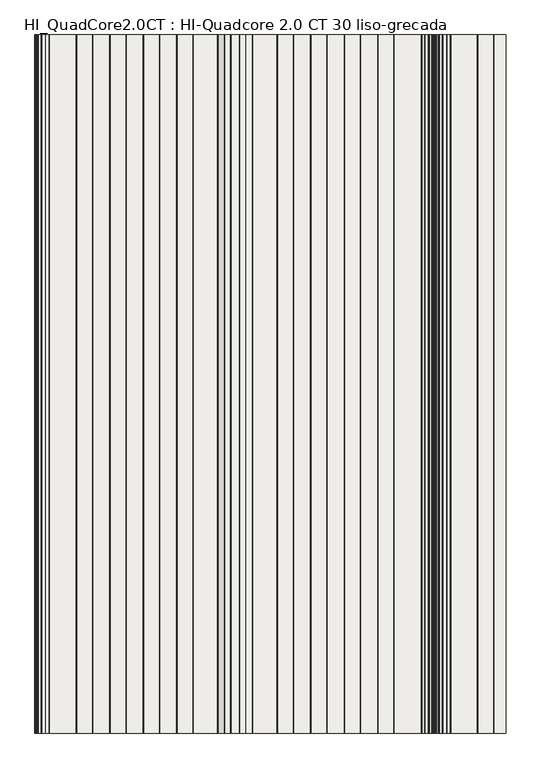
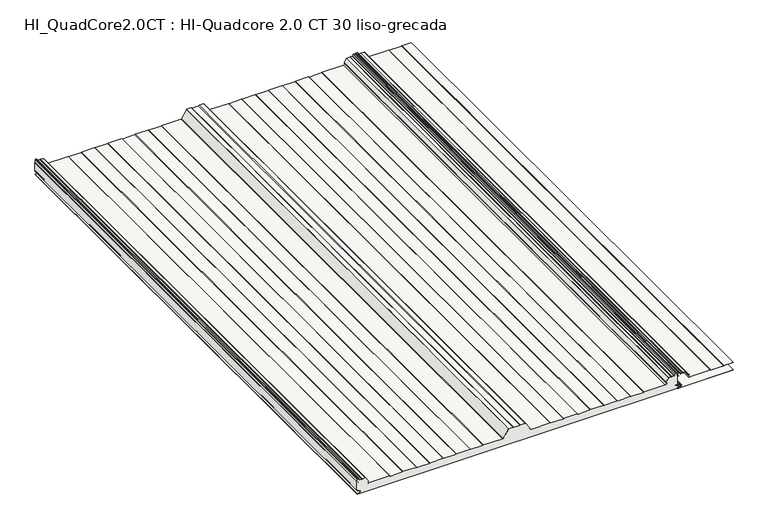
"""IFC4 building model written with IfcOpenShell, lengths in millimetres: slab geometry, HI_QuadCore2.0CT : HI-Quadcore 2.0 CT 30 liso-grecada."""

from ifc_helpers import new_model, si_unit, point, frame, frame_2d, origin, place, context, project, spatial, polyline, circle_curve, trimmed, segment, composite_curve, outline, extrude, source, transform, mapped, element, save
from ifc_brep_helpers import plane_surface, cylinder_surface, revolved_surface, advanced_brep


def hi_quadcore2_0ct_hi_quadcore_2_0_ct_30_liso_grecada_a04230f8(model_context):
    return source(origin(), model_context, "Body", "SolidModel", [
        advanced_brep(
        [(1155.1475465, 0.0, 45.7425833), (1151.3824194, 0.0, 47.9163804), (1150.0, 0.0, 47.9163804), (1150.0, 0.0, 16.239302), (1157.510215, 0.0, 16.239302), (1157.510215, 0.0, 15.4391074), (1153.6125693, 0.0, 15.4391074), (1152.4319301, 0.0, 14.2584682), (1153.4276302, 0.0, 13.0866965), (1161.8278581, 0.0, 11.7547343), (1161.7995989, 0.0, 4.4809044), (1151.8467032, 0.0, 2.9844289), (1152.0100062, 0.0, 0.8), (2297.9590685, 0.0, 0.8), (2299.3391392, 0.0, 2.1800708), (2302.5664905, 0.0, 5.8294074), (2310.7843221, 0.0, 6.8264698), (2310.7843299, 0.0, 9.4135286), (2300.8450446, 0.0, 10.6192254), (2297.8324398, 0.0, 14.0237344), (2297.2282701, 0.0, 15.44), (2292.7624398, 0.0, 15.44), (2292.7624398, 0.0, 16.239302), (2300.0, 0.0, 16.239302), (2300.0, 0.0, 47.9163804), (2298.8824194, 0.0, 47.9163804), (2295.1172924, 0.0, 45.7425833), (2294.7172924, 0.0, 46.4354036), (2298.5824194, 0.0, 48.6669358), (2298.5824194, 0.0, 58.1), (2297.4824194, 0.0, 59.2), (2293.8888221, 0.0, 59.2), (2292.8725546, 0.0, 58.5209518), (2291.0157992, 0.0, 54.0383476), (2288.8631598, 0.0, 52.6), (2282.1371875, 0.0, 52.6), (2280.4324194, 0.0, 51.8110374), (2278.7276514, 0.0, 52.6), (2269.4004541, 0.0, 52.6), (2268.4939153, 0.0, 52.1230469), (2259.1558806, 0.0, 38.5361221), (2259.356723, 0.0, 37.0692788), (2260.3070878, 0.0, 36.2744554), (2257.4852773, 0.0, 29.2), (2181.3816122, 0.0, 29.2), (2179.6495614, 0.0, 28.2), (2134.6152775, 0.0, 28.2), (2132.8832267, 0.0, 29.2), (2085.3816122, 0.0, 29.2), (2083.6495614, 0.0, 28.2), (2038.6152775, 0.0, 28.2), (2036.8832267, 0.0, 29.2), (1989.3816122, 0.0, 29.2), (1987.6495614, 0.0, 28.2), (1942.6152775, 0.0, 28.2), (1940.8832267, 0.0, 29.2), (1893.3816122, 0.0, 29.2), (1891.6495614, 0.0, 28.2), (1846.6152775, 0.0, 28.2), (1844.8832267, 0.0, 29.2), (1775.9029123, 0.0, 29.2), (1773.9344839, 0.0, 30.2833287), (1755.9445057, 0.0, 58.6885573), (1755.0152048, 0.0, 59.2), (1738.8816122, 0.0, 59.2), (1736.283536, 0.0, 57.7), (1713.9813029, 0.0, 57.7), (1711.3832267, 0.0, 59.2), (1695.2496341, 0.0, 59.2), (1694.3203331, 0.0, 58.6885573), (1676.330355, 0.0, 30.2833287), (1674.3619266, 0.0, 29.2), (1605.3816122, 0.0, 29.2), (1603.6495614, 0.0, 28.2), (1558.6152775, 0.0, 28.2), (1556.8832267, 0.0, 29.2), (1509.3816122, 0.0, 29.2), (1507.6495614, 0.0, 28.2), (1462.6152775, 0.0, 28.2), (1460.8832267, 0.0, 29.2), (1413.3816122, 0.0, 29.2), (1411.6495614, 0.0, 28.2), (1366.6152775, 0.0, 28.2), (1364.8832267, 0.0, 29.2), (1317.3816122, 0.0, 29.2), (1315.6495614, 0.0, 28.2), (1270.6152775, 0.0, 28.2), (1268.8832267, 0.0, 29.2), (1192.7795617, 0.0, 29.2), (1189.9577511, 0.0, 36.2744555), (1190.9081159, 0.0, 37.0692788), (1191.1089583, 0.0, 38.5361221), (1181.7709236, 0.0, 52.1230469), (1180.8643848, 0.0, 52.6), (1171.5371875, 0.0, 52.6), (1169.8324194, 0.0, 51.8110374), (1168.1276514, 0.0, 52.6), (1161.4016791, 0.0, 52.6), (1159.2490397, 0.0, 54.0383476), (1157.3922843, 0.0, 58.5209518), (1156.3760168, 0.0, 59.2), (1152.7824194, 0.0, 59.2), (1151.6824194, 0.0, 58.1), (1151.6824194, 0.0, 48.6669358), (1155.5475465, 0.0, 46.4354036), (1155.1475465, 2000.0, 45.7425833), (1155.5475465, 2000.0, 46.4354036), (1151.6824194, 2000.0, 48.6669358), (1151.6824194, 2000.0, 58.1), (1152.7824194, 2000.0, 59.2), (1156.3760168, 2000.0, 59.2), (1157.3922843, 2000.0, 58.5209518), (1159.2490397, 2000.0, 54.0383476), (1161.4016791, 2000.0, 52.6), (1168.1276514, 2000.0, 52.6), (1169.8324194, 2000.0, 51.8110374), (1171.5371875, 2000.0, 52.6), (1180.8643848, 2000.0, 52.6), (1181.7709236, 2000.0, 52.1230469), (1191.1089583, 2000.0, 38.5361221), (1190.9081159, 2000.0, 37.0692788), (1189.9577511, 2000.0, 36.2744555), (1192.7795617, 2000.0, 29.2), (1268.8832267, 2000.0, 29.2), (1270.6152775, 2000.0, 28.2), (1315.6495614, 2000.0, 28.2), (1317.3816122, 2000.0, 29.2), (1364.8832267, 2000.0, 29.2), (1366.6152775, 2000.0, 28.2), (1411.6495614, 2000.0, 28.2), (1413.3816122, 2000.0, 29.2), (1460.8832267, 2000.0, 29.2), (1462.6152775, 2000.0, 28.2), (1507.6495614, 2000.0, 28.2), (1509.3816122, 2000.0, 29.2), (1556.8832267, 2000.0, 29.2), (1558.6152775, 2000.0, 28.2), (1603.6495614, 2000.0, 28.2), (1605.3816122, 2000.0, 29.2), (1674.3619266, 2000.0, 29.2), (1676.330355, 2000.0, 30.2833287), (1694.3203331, 2000.0, 58.6885573), (1695.2496341, 2000.0, 59.2), (1711.3832267, 2000.0, 59.2), (1713.9813029, 2000.0, 57.7), (1736.283536, 2000.0, 57.7), (1738.8816122, 2000.0, 59.2), (1755.0152048, 2000.0, 59.2), (1755.9445057, 2000.0, 58.6885573), (1773.9344839, 2000.0, 30.2833287), (1775.9029123, 2000.0, 29.2), (1844.8832267, 2000.0, 29.2), (1846.6152775, 2000.0, 28.2), (1891.6495614, 2000.0, 28.2), (1893.3816122, 2000.0, 29.2), (1940.8832267, 2000.0, 29.2), (1942.6152775, 2000.0, 28.2), (1987.6495614, 2000.0, 28.2), (1989.3816122, 2000.0, 29.2), (2036.8832267, 2000.0, 29.2), (2038.6152775, 2000.0, 28.2), (2083.6495614, 2000.0, 28.2), (2085.3816122, 2000.0, 29.2), (2132.8832267, 2000.0, 29.2), (2134.6152775, 2000.0, 28.2), (2179.6495614, 2000.0, 28.2), (2181.3816122, 2000.0, 29.2), (2257.4852773, 2000.0, 29.2), (2260.3070878, 2000.0, 36.2744554), (2259.356723, 2000.0, 37.0692788), (2259.1558806, 2000.0, 38.5361221), (2268.4939153, 2000.0, 52.1230469), (2269.4004541, 2000.0, 52.6), (2278.7276514, 2000.0, 52.6), (2280.4324194, 2000.0, 51.8110374), (2282.1371875, 2000.0, 52.6), (2288.8631598, 2000.0, 52.6), (2291.0157992, 2000.0, 54.0383476), (2292.8725546, 2000.0, 58.5209518), (2293.8888221, 2000.0, 59.2), (2297.4824194, 2000.0, 59.2), (2298.5824194, 2000.0, 58.1), (2298.5824194, 2000.0, 48.6669358), (2294.7172924, 2000.0, 46.4354036), (2295.1172924, 2000.0, 45.7425833), (2298.8824194, 2000.0, 47.9163804), (2300.0, 2000.0, 47.9163804), (2300.0, 2000.0, 16.239302), (2292.7624398, 2000.0, 16.239302), (2292.7624398, 2000.0, 15.44), (2297.2282701, 2000.0, 15.44), (2297.8324398, 2000.0, 14.0237344), (2300.8450446, 2000.0, 10.6192254), (2310.7843299, 2000.0, 9.4135286), (2310.7843221, 2000.0, 6.8264698), (2302.5664905, 2000.0, 5.8294074), (2299.3391392, 2000.0, 2.1800708), (2297.9590685, 2000.0, 0.8), (1152.0100062, 2000.0, 0.8), (1151.8467032, 2000.0, 2.9844289), (1161.7995989, 2000.0, 4.4809044), (1161.8278581, 2000.0, 11.7547343), (1153.4273037, 2000.0, 13.0846342), (1152.4319301, 2000.0, 14.2584682), (1153.6125693, 2000.0, 15.4391074), (1157.510215, 2000.0, 15.4391074), (1157.510215, 2000.0, 16.239302), (1150.0, 2000.0, 16.239302), (1150.0, 2000.0, 47.9163804), (1151.3824194, 2000.0, 47.9163804)],
        [
            (0, 1),
            (1, 2),
            (2, 3),
            (3, 4),
            (4, 5),
            (5, 6),
            (6, 7, circle_curve(frame((1153.6125693, 0.0, 14.2584682), z_axis=(0.0, -1.0, 0.0), x_axis=(1.0, 0.0, 0.0)), 1.1806391)),
            (7, 8, circle_curve(frame((1153.6121809, 0.0, 14.2524448), z_axis=(0.0, -1.0, 0.0), x_axis=(1.0, 0.0, 0.0)), 1.1802661)),
            (8, 9),
            (9, 10, circle_curve(frame((1161.2524398, 0.0, 8.12), z_axis=(0.0, 1.0, 0.0), x_axis=(1.0, 0.0, 0.0)), 3.68)),
            (10, 11),
            (11, 12, circle_curve(frame((1152.0100062, 0.0, 1.8983185), z_axis=(0.0, -1.0, 0.0), x_axis=(1.0, 0.0, 0.0)), 1.0983185)),
            (12, 13),
            (13, 14, circle_curve(frame((2297.9590685, 0.0, 2.1800708), z_axis=(0.0, -1.0, 0.0), x_axis=(1.0, 0.0, 0.0)), 1.3800708)),
            (14, 15, circle_curve(frame((2303.0160638, 0.0, 2.1800708), z_axis=(0.0, 1.0, 0.0), x_axis=(1.0, 0.0, 0.0)), 3.6769246)),
            (15, 16),
            (16, 17, circle_curve(frame((2310.5224398, 0.0, 8.12), z_axis=(0.0, -1.0, 0.0), x_axis=(1.0, 0.0, 0.0)), 1.3197737)),
            (17, 18),
            (18, 19, circle_curve(frame((2301.2624398, 0.0, 14.0237344), z_axis=(0.0, 1.0, 0.0), x_axis=(1.0, 0.0, 0.0)), 3.43)),
            (19, 20, circle_curve(frame((2295.8703839, 0.0, 14.0237344), z_axis=(0.0, -1.0, 0.0), x_axis=(1.0, 0.0, 0.0)), 1.9620559)),
            (20, 21),
            (21, 22),
            (22, 23),
            (23, 24),
            (24, 25),
            (25, 26),
            (26, 27),
            (27, 28),
            (28, 29),
            (29, 30, circle_curve(frame((2297.4824194, 0.0, 58.1), z_axis=(0.0, -1.0, 0.0), x_axis=(1.0, 0.0, 0.0)), 1.1)),
            (30, 31),
            (31, 32, circle_curve(frame((2293.8888221, 0.0, 58.1), z_axis=(0.0, -1.0, 0.0), x_axis=(1.0, 0.0, 0.0)), 1.1)),
            (32, 33),
            (33, 34, circle_curve(frame((2288.8631598, 0.0, 54.93), z_axis=(0.0, 1.0, 0.0), x_axis=(1.0, 0.0, 0.0)), 2.33)),
            (34, 35),
            (35, 36),
            (36, 37),
            (37, 38),
            (38, 39, circle_curve(frame((2269.4004541, 0.0, 51.5), z_axis=(0.0, -1.0, 0.0), x_axis=(1.0, 0.0, 0.0)), 1.1)),
            (39, 40),
            (40, 41, circle_curve(frame((2260.0624194, 0.0, 37.9130753), z_axis=(0.0, -1.0, 0.0), x_axis=(1.0, 0.0, 0.0)), 1.1)),
            (41, 42),
            (42, 43, circle_curve(frame((2257.4852773, 0.0, 33.3), z_axis=(0.0, 1.0, 0.0), x_axis=(1.0, 0.0, 0.0)), 4.1)),
            (43, 44),
            (44, 45),
            (45, 46),
            (46, 47),
            (47, 48),
            (48, 49),
            (49, 50),
            (50, 51),
            (51, 52),
            (52, 53),
            (53, 54),
            (54, 55),
            (55, 56),
            (56, 57),
            (57, 58),
            (58, 59),
            (59, 60),
            (60, 61, circle_curve(frame((1775.9029123, 0.0, 31.53), z_axis=(0.0, 1.0, 0.0), x_axis=(1.0, 0.0, 0.0)), 2.33)),
            (61, 62),
            (62, 63, circle_curve(frame((1755.0152048, 0.0, 58.1), z_axis=(0.0, -1.0, 0.0), x_axis=(1.0, 0.0, 0.0)), 1.1)),
            (63, 64),
            (64, 65),
            (65, 66),
            (66, 67),
            (67, 68),
            (68, 69, circle_curve(frame((1695.2496341, 0.0, 58.1), z_axis=(0.0, -1.0, 0.0), x_axis=(1.0, 0.0, 0.0)), 1.1)),
            (69, 70),
            (70, 71, circle_curve(frame((1674.3619266, 0.0, 31.53), z_axis=(0.0, 1.0, 0.0), x_axis=(1.0, 0.0, 0.0)), 2.33)),
            (71, 72),
            (72, 73),
            (73, 74),
            (74, 75),
            (75, 76),
            (76, 77),
            (77, 78),
            (78, 79),
            (79, 80),
            (80, 81),
            (81, 82),
            (82, 83),
            (83, 84),
            (84, 85),
            (85, 86),
            (86, 87),
            (87, 88),
            (88, 89, circle_curve(frame((1192.7795617, 0.0, 33.3), z_axis=(0.0, 1.0, 0.0), x_axis=(1.0, 0.0, 0.0)), 4.1)),
            (89, 90),
            (90, 91, circle_curve(frame((1190.2024195, 0.0, 37.9130752), z_axis=(0.0, -1.0, 0.0), x_axis=(1.0, 0.0, 0.0)), 1.1)),
            (91, 92),
            (92, 93, circle_curve(frame((1180.8643848, 0.0, 51.5), z_axis=(0.0, -1.0, 0.0), x_axis=(1.0, 0.0, 0.0)), 1.1)),
            (93, 94),
            (94, 95),
            (95, 96),
            (96, 97),
            (97, 98, circle_curve(frame((1161.4016791, 0.0, 54.93), z_axis=(0.0, 1.0, 0.0), x_axis=(1.0, 0.0, 0.0)), 2.33)),
            (98, 99),
            (99, 100, circle_curve(frame((1156.3760168, 0.0, 58.1), z_axis=(0.0, -1.0, 0.0), x_axis=(1.0, 0.0, 0.0)), 1.1)),
            (100, 101),
            (101, 102, circle_curve(frame((1152.7824194, 0.0, 58.1), z_axis=(0.0, -1.0, 0.0), x_axis=(1.0, 0.0, 0.0)), 1.1)),
            (102, 103),
            (103, 104),
            (104, 0),
            (105, 106),
            (106, 107),
            (107, 108),
            (108, 109, circle_curve(frame((1152.7824194, 2000.0, 58.1), z_axis=(0.0, 1.0, 0.0), x_axis=(1.0, 0.0, 0.0)), 1.1)),
            (109, 110),
            (110, 111, circle_curve(frame((1156.3760168, 2000.0, 58.1), z_axis=(0.0, 1.0, 0.0), x_axis=(1.0, 0.0, 0.0)), 1.1)),
            (111, 112),
            (112, 113, circle_curve(frame((1161.4016791, 2000.0, 54.93), z_axis=(0.0, -1.0, 0.0), x_axis=(1.0, 0.0, 0.0)), 2.33)),
            (113, 114),
            (114, 115),
            (115, 116),
            (116, 117),
            (117, 118, circle_curve(frame((1180.8643848, 2000.0, 51.5), z_axis=(0.0, 1.0, 0.0), x_axis=(1.0, 0.0, 0.0)), 1.1)),
            (118, 119),
            (119, 120, circle_curve(frame((1190.2024195, 2000.0, 37.9130752), z_axis=(0.0, 1.0, 0.0), x_axis=(1.0, 0.0, 0.0)), 1.1)),
            (120, 121),
            (121, 122, circle_curve(frame((1192.7795617, 2000.0, 33.3), z_axis=(0.0, -1.0, 0.0), x_axis=(1.0, 0.0, 0.0)), 4.1)),
            (122, 123),
            (123, 124),
            (124, 125),
            (125, 126),
            (126, 127),
            (127, 128),
            (128, 129),
            (129, 130),
            (130, 131),
            (131, 132),
            (132, 133),
            (133, 134),
            (134, 135),
            (135, 136),
            (136, 137),
            (137, 138),
            (138, 139),
            (139, 140, circle_curve(frame((1674.3619266, 2000.0, 31.53), z_axis=(0.0, -1.0, 0.0), x_axis=(1.0, 0.0, 0.0)), 2.33)),
            (140, 141),
            (141, 142, circle_curve(frame((1695.2496341, 2000.0, 58.1), z_axis=(0.0, 1.0, 0.0), x_axis=(1.0, 0.0, 0.0)), 1.1)),
            (142, 143),
            (143, 144),
            (144, 145),
            (145, 146),
            (146, 147),
            (147, 148, circle_curve(frame((1755.0152048, 2000.0, 58.1), z_axis=(0.0, 1.0, 0.0), x_axis=(1.0, 0.0, 0.0)), 1.1)),
            (148, 149),
            (149, 150, circle_curve(frame((1775.9029123, 2000.0, 31.53), z_axis=(0.0, -1.0, 0.0), x_axis=(1.0, 0.0, 0.0)), 2.33)),
            (150, 151),
            (151, 152),
            (152, 153),
            (153, 154),
            (154, 155),
            (155, 156),
            (156, 157),
            (157, 158),
            (158, 159),
            (159, 160),
            (160, 161),
            (161, 162),
            (162, 163),
            (163, 164),
            (164, 165),
            (165, 166),
            (166, 167),
            (167, 168, circle_curve(frame((2257.4852773, 2000.0, 33.3), z_axis=(0.0, -1.0, 0.0), x_axis=(1.0, 0.0, 0.0)), 4.1)),
            (168, 169),
            (169, 170, circle_curve(frame((2260.0624194, 2000.0, 37.9130753), z_axis=(0.0, 1.0, 0.0), x_axis=(1.0, 0.0, 0.0)), 1.1)),
            (170, 171),
            (171, 172, circle_curve(frame((2269.4004541, 2000.0, 51.5), z_axis=(0.0, 1.0, 0.0), x_axis=(1.0, 0.0, 0.0)), 1.1)),
            (172, 173),
            (173, 174),
            (174, 175),
            (175, 176),
            (176, 177, circle_curve(frame((2288.8631598, 2000.0, 54.93), z_axis=(0.0, -1.0, 0.0), x_axis=(1.0, 0.0, 0.0)), 2.33)),
            (177, 178),
            (178, 179, circle_curve(frame((2293.8888221, 2000.0, 58.1), z_axis=(0.0, 1.0, 0.0), x_axis=(1.0, 0.0, 0.0)), 1.1)),
            (179, 180),
            (180, 181, circle_curve(frame((2297.4824194, 2000.0, 58.1), z_axis=(0.0, 1.0, 0.0), x_axis=(1.0, 0.0, 0.0)), 1.1)),
            (181, 182),
            (182, 183),
            (183, 184),
            (184, 185),
            (185, 186),
            (186, 187),
            (187, 188),
            (188, 189),
            (189, 190),
            (190, 191, circle_curve(frame((2295.8703839, 2000.0, 14.0237344), z_axis=(0.0, 1.0, 0.0), x_axis=(1.0, 0.0, 0.0)), 1.9620559)),
            (191, 192, circle_curve(frame((2301.2624398, 2000.0, 14.0237344), z_axis=(0.0, -1.0, 0.0), x_axis=(1.0, 0.0, 0.0)), 3.43)),
            (192, 193),
            (193, 194, circle_curve(frame((2310.5224398, 2000.0, 8.12), z_axis=(0.0, 1.0, 0.0), x_axis=(1.0, 0.0, 0.0)), 1.3197737)),
            (194, 195),
            (195, 196, circle_curve(frame((2303.0160638, 2000.0, 2.1800708), z_axis=(0.0, -1.0, 0.0), x_axis=(1.0, 0.0, 0.0)), 3.6769246)),
            (196, 197, circle_curve(frame((2297.9590685, 2000.0, 2.1800708), z_axis=(0.0, 1.0, 0.0), x_axis=(1.0, 0.0, 0.0)), 1.3800708)),
            (197, 198),
            (198, 199, circle_curve(frame((1152.0100062, 2000.0, 1.8983185), z_axis=(0.0, 1.0, 0.0), x_axis=(1.0, 0.0, 0.0)), 1.0983185)),
            (199, 200),
            (200, 201, circle_curve(frame((1161.2524398, 2000.0, 8.12), z_axis=(0.0, -1.0, 0.0), x_axis=(1.0, 0.0, 0.0)), 3.68)),
            (201, 202),
            (202, 203, circle_curve(frame((1153.6121809, 2000.0, 14.2524448), z_axis=(0.0, 1.0, 0.0), x_axis=(1.0, 0.0, 0.0)), 1.1802661)),
            (203, 204, circle_curve(frame((1153.6125693, 2000.0, 14.2584682), z_axis=(0.0, 1.0, 0.0), x_axis=(1.0, 0.0, 0.0)), 1.1806391)),
            (204, 205),
            (205, 206),
            (206, 207),
            (207, 208),
            (208, 209),
            (209, 105),
            (0, 105),
            (209, 1),
            (208, 2),
            (207, 3),
            (186, 24),
            (23, 187),
            (185, 25),
            (184, 26),
            (183, 27),
            (182, 28),
            (181, 29),
            (180, 30),
            (179, 31),
            (178, 32),
            (177, 33),
            (176, 34),
            (175, 35),
            (174, 36),
            (173, 37),
            (172, 38),
            (171, 39),
            (170, 40),
            (169, 41),
            (168, 42),
            (167, 43),
            (166, 44),
            (165, 45),
            (164, 46),
            (163, 47),
            (162, 48),
            (161, 49),
            (160, 50),
            (159, 51),
            (158, 52),
            (157, 53),
            (156, 54),
            (155, 55),
            (154, 56),
            (153, 57),
            (152, 58),
            (151, 59),
            (150, 60),
            (149, 61),
            (148, 62),
            (147, 63),
            (146, 64),
            (145, 65),
            (144, 66),
            (143, 67),
            (142, 68),
            (141, 69),
            (140, 70),
            (139, 71),
            (138, 72),
            (137, 73),
            (136, 74),
            (135, 75),
            (134, 76),
            (133, 77),
            (132, 78),
            (131, 79),
            (130, 80),
            (129, 81),
            (128, 82),
            (127, 83),
            (126, 84),
            (125, 85),
            (124, 86),
            (123, 87),
            (122, 88),
            (121, 89),
            (120, 90),
            (119, 91),
            (118, 92),
            (117, 93),
            (116, 94),
            (115, 95),
            (114, 96),
            (113, 97),
            (112, 98),
            (111, 99),
            (110, 100),
            (109, 101),
            (108, 102),
            (107, 103),
            (106, 104),
            (22, 188),
            (206, 4),
            (205, 5),
            (204, 6),
            (203, 7),
            (202, 8),
            (201, 9),
            (200, 10),
            (199, 11),
            (198, 12),
            (197, 13),
            (196, 14),
            (195, 15),
            (194, 16),
            (193, 17),
            (192, 18),
            (191, 19),
            (190, 20),
            (189, 21),
        ],
        [
            plane_surface(frame((1151.3824194, 0.0, 47.9163804), z_axis=(0.0, -1.0, 0.0), x_axis=(-0.866025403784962, 0.0, 0.4999999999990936))),
            plane_surface(frame((1151.3824194, 2000.0, 47.9163804), z_axis=(0.0, 1.0, 0.0), x_axis=(0.866025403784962, 0.0, -0.4999999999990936))),
            plane_surface(frame((1155.1475465, 0.0, 45.7425833), z_axis=(0.4999999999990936, 0.0, 0.866025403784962), x_axis=(0.0, 1.0, 0.0))),
            plane_surface(frame((1151.3824194, 0.0, 47.9163804), z_axis=(0.0, 0.0, 1.0), x_axis=(0.0, 1.0, 0.0))),
            plane_surface(frame((1150.0, 0.0, 47.9163804), z_axis=(-1.0, 0.0, 0.0), x_axis=(0.0, 1.0, 0.0))),
            plane_surface(frame((2300.0, 0.0, 20.0), z_axis=(1.0, 0.0, 0.0), x_axis=(0.0, 1.0, 0.0))),
            plane_surface(frame((2300.0, 0.0, 47.9163804), z_axis=(0.0, 0.0, 1.0), x_axis=(0.0, 1.0, 0.0))),
            plane_surface(frame((2298.8824194, 0.0, 47.9163804), z_axis=(-0.4999999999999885, 0.0, 0.8660254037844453), x_axis=(0.0, 1.0, 0.0))),
            plane_surface(frame((2295.1172924, 0.0, 45.7425833), z_axis=(0.8660254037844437, 0.0, 0.49999999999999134), x_axis=(0.0, 1.0, 0.0))),
            plane_surface(frame((2294.7172924, 0.0, 46.4354036), z_axis=(0.4999999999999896, 0.0, -0.8660254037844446), x_axis=(0.0, 1.0, 0.0))),
            plane_surface(frame((2298.5824194, 0.0, 48.6669358), z_axis=(1.0, 0.0, 0.0), x_axis=(0.0, 1.0, 0.0))),
            cylinder_surface(frame((2297.4824194, 2000.0, 58.1), z_axis=(0.0, -1.0, 0.0), x_axis=(1.0, 0.0, 0.0)), 1.1),
            plane_surface(frame((2297.4824194, 0.0, 59.2), z_axis=(0.0, 0.0, 1.0), x_axis=(0.0, 1.0, 0.0))),
            cylinder_surface(frame((2293.8888221, 2000.0, 58.1), z_axis=(0.0, -1.0, 0.0), x_axis=(1.0, 0.0, 0.0)), 1.1),
            plane_surface(frame((2292.8725546, 0.0, 58.5209518), z_axis=(-0.9238795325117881, 0.0, 0.38268343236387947), x_axis=(0.0, 1.0, 0.0))),
            revolved_surface(polyline([(2291.1931598, 2000.0, 54.93), (2291.1931598, 0.0, 54.93)]), (2288.8631598, 2000.0, 54.93), (0.0, 1.0, 0.0)),
            plane_surface(frame((2288.8631598, 0.0, 52.6), z_axis=(0.0, 0.0, 1.0), x_axis=(0.0, 1.0, 0.0))),
            plane_surface(frame((2282.1371875, 0.0, 52.6), z_axis=(-0.4199999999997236, 0.0, 0.9075241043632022), x_axis=(0.0, 1.0, 0.0))),
            plane_surface(frame((2280.4324194, 0.0, 51.8110374), z_axis=(0.42000000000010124, 0.0, 0.9075241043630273), x_axis=(0.0, 1.0, 0.0))),
            plane_surface(frame((2278.7276514, 0.0, 52.6), z_axis=(0.0, 0.0, 1.0), x_axis=(0.0, 1.0, 0.0))),
            cylinder_surface(frame((2269.4004541, 2000.0, 51.5), z_axis=(0.0, -1.0, 0.0), x_axis=(1.0, 0.0, 0.0)), 1.1),
            plane_surface(frame((2268.4939153, 0.0, 52.1230469), z_axis=(-0.824126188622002, 0.0, 0.5664062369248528), x_axis=(0.0, 1.0, 0.0))),
            cylinder_surface(frame((2260.0624194, 2000.0, 37.9130753), z_axis=(0.0, -1.0, 0.0), x_axis=(1.0, 0.0, 0.0)), 1.1),
            plane_surface(frame((2259.356723, 0.0, 37.0692788), z_axis=(-0.6415422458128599, 0.0, -0.7670877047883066), x_axis=(0.0, 1.0, 0.0))),
            revolved_surface(polyline([(2261.5852772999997, 2000.0, 33.3), (2261.5852772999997, 0.0, 33.3)]), (2257.4852773, 2000.0, 33.3), (0.0, 1.0, 0.0)),
            plane_surface(frame((2257.4852773, 0.0, 29.2), z_axis=(0.0, 0.0, 1.0), x_axis=(0.0, 1.0, 0.0))),
            plane_surface(frame((2181.3816122, 0.0, 29.2), z_axis=(-0.4999999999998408, 0.0, 0.8660254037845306), x_axis=(0.0, 1.0, 0.0))),
            plane_surface(frame((2179.6495614, 0.0, 28.2), z_axis=(0.0, 0.0, 1.0), x_axis=(0.0, 1.0, 0.0))),
            plane_surface(frame((2134.6152775, 0.0, 28.2), z_axis=(0.4999999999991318, 0.0, 0.86602540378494), x_axis=(0.0, 1.0, 0.0))),
            plane_surface(frame((2132.8832267, 0.0, 29.2), z_axis=(0.0, 0.0, 1.0), x_axis=(0.0, 1.0, 0.0))),
            plane_surface(frame((2085.3816122, 0.0, 29.2), z_axis=(-0.49999999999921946, 0.0, 0.8660254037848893), x_axis=(0.0, 1.0, 0.0))),
            plane_surface(frame((2083.6495614, 0.0, 28.2), z_axis=(0.0, 0.0, 1.0), x_axis=(0.0, 1.0, 0.0))),
            plane_surface(frame((2038.6152775, 0.0, 28.2), z_axis=(0.49999999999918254, 0.0, 0.8660254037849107), x_axis=(0.0, 1.0, 0.0))),
            plane_surface(frame((2036.8832267, 0.0, 29.2), z_axis=(0.0, 0.0, 1.0), x_axis=(0.0, 1.0, 0.0))),
            plane_surface(frame((1989.3816122, 0.0, 29.2), z_axis=(-0.4999999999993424, 0.0, 0.8660254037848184), x_axis=(0.0, 1.0, 0.0))),
            plane_surface(frame((1987.6495614, 0.0, 28.2), z_axis=(0.0, 0.0, 1.0), x_axis=(0.0, 1.0, 0.0))),
            plane_surface(frame((1942.6152775, 0.0, 28.2), z_axis=(0.4999999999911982, 0.0, 0.8660254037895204), x_axis=(0.0, 1.0, 0.0))),
            plane_surface(frame((1940.8832267, 0.0, 29.2), z_axis=(0.0, 0.0, 1.0), x_axis=(0.0, 1.0, 0.0))),
            plane_surface(frame((1893.3816122, 0.0, 29.2), z_axis=(-0.5000000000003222, 0.0, 0.8660254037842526), x_axis=(0.0, 1.0, 0.0))),
            plane_surface(frame((1891.6495614, 0.0, 28.2), z_axis=(0.0, 0.0, 1.0), x_axis=(0.0, 1.0, 0.0))),
            plane_surface(frame((1846.6152775, 0.0, 28.2), z_axis=(0.5000000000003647, 0.0, 0.8660254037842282), x_axis=(0.0, 1.0, 0.0))),
            plane_surface(frame((1844.8832267, 0.0, 29.2), z_axis=(0.0, 0.0, 1.0), x_axis=(0.0, 1.0, 0.0))),
            revolved_surface(polyline([(1778.2329123, 2000.0, 31.53), (1778.2329123, 0.0, 31.53)]), (1775.9029123, 2000.0, 31.53), (0.0, 1.0, 0.0)),
            plane_surface(frame((1773.9344839, 0.0, 30.2833287), z_axis=(0.8448190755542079, 0.0, 0.5350520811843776), x_axis=(0.0, 1.0, 0.0))),
            cylinder_surface(frame((1755.0152048, 2000.0, 58.1), z_axis=(0.0, -1.0, 0.0), x_axis=(1.0, 0.0, 0.0)), 1.1),
            plane_surface(frame((1755.0152048, 0.0, 59.2), z_axis=(0.0, 0.0, 1.0), x_axis=(0.0, 1.0, 0.0))),
            plane_surface(frame((1738.8816122, 0.0, 59.2), z_axis=(-0.4999999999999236, 0.0, 0.8660254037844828), x_axis=(0.0, 1.0, 0.0))),
            plane_surface(frame((1736.283536, 0.0, 57.7), z_axis=(0.0, 0.0, 1.0), x_axis=(0.0, 1.0, 0.0))),
            plane_surface(frame((1713.9813029, 0.0, 57.7), z_axis=(0.5000000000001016, 0.0, 0.86602540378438), x_axis=(0.0, 1.0, 0.0))),
            plane_surface(frame((1711.3832267, 0.0, 59.2), z_axis=(0.0, 0.0, 1.0), x_axis=(0.0, 1.0, 0.0))),
            cylinder_surface(frame((1695.2496341, 2000.0, 58.1), z_axis=(0.0, -1.0, 0.0), x_axis=(1.0, 0.0, 0.0)), 1.1),
            plane_surface(frame((1694.3203331, 0.0, 58.6885573), z_axis=(-0.8448190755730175, 0.0, 0.5350520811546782), x_axis=(0.0, 1.0, 0.0))),
            revolved_surface(polyline([(1676.6919266, 2000.0, 31.53), (1676.6919266, 0.0, 31.53)]), (1674.3619266, 2000.0, 31.53), (0.0, 1.0, 0.0)),
            plane_surface(frame((1674.3619266, 0.0, 29.2), z_axis=(0.0, 0.0, 1.0), x_axis=(0.0, 1.0, 0.0))),
            plane_surface(frame((1605.3816122, 0.0, 29.2), z_axis=(-0.5000000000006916, 0.0, 0.8660254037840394), x_axis=(0.0, 1.0, 0.0))),
            plane_surface(frame((1603.6495614, 0.0, 28.2), z_axis=(0.0, 0.0, 1.0), x_axis=(0.0, 1.0, 0.0))),
            plane_surface(frame((1558.6152775, 0.0, 28.2), z_axis=(0.49999999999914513, 0.0, 0.8660254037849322), x_axis=(0.0, 1.0, 0.0))),
            plane_surface(frame((1556.8832267, 0.0, 29.2), z_axis=(0.0, 0.0, 1.0), x_axis=(0.0, 1.0, 0.0))),
            plane_surface(frame((1509.3816122, 0.0, 29.2), z_axis=(-0.500000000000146, 0.0, 0.8660254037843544), x_axis=(0.0, 1.0, 0.0))),
            plane_surface(frame((1507.6495614, 0.0, 28.2), z_axis=(0.0, 0.0, 1.0), x_axis=(0.0, 1.0, 0.0))),
            plane_surface(frame((1462.6152775, 0.0, 28.2), z_axis=(0.49999999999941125, 0.0, 0.8660254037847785), x_axis=(0.0, 1.0, 0.0))),
            plane_surface(frame((1460.8832267, 0.0, 29.2), z_axis=(0.0, 0.0, 1.0), x_axis=(0.0, 1.0, 0.0))),
            plane_surface(frame((1413.3816122, 0.0, 29.2), z_axis=(-0.4999999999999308, 0.0, 0.8660254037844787), x_axis=(0.0, 1.0, 0.0))),
            plane_surface(frame((1411.6495614, 0.0, 28.2), z_axis=(0.0, 0.0, 1.0), x_axis=(0.0, 1.0, 0.0))),
            plane_surface(frame((1366.6152775, 0.0, 28.2), z_axis=(0.49999999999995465, 0.0, 0.8660254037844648), x_axis=(0.0, 1.0, 0.0))),
            plane_surface(frame((1364.8832267, 0.0, 29.2), z_axis=(0.0, 0.0, 1.0), x_axis=(0.0, 1.0, 0.0))),
            plane_surface(frame((1317.3816122, 0.0, 29.2), z_axis=(-0.5000000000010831, 0.0, 0.8660254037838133), x_axis=(0.0, 1.0, 0.0))),
            plane_surface(frame((1315.6495614, 0.0, 28.2), z_axis=(0.0, 0.0, 1.0), x_axis=(0.0, 1.0, 0.0))),
            plane_surface(frame((1270.6152775, 0.0, 28.2), z_axis=(0.4999999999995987, 0.0, 0.8660254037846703), x_axis=(0.0, 1.0, 0.0))),
            plane_surface(frame((1268.8832267, 0.0, 29.2), z_axis=(0.0, 0.0, 1.0), x_axis=(0.0, 1.0, 0.0))),
            revolved_surface(polyline([(1196.8795616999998, 2000.0, 33.3), (1196.8795616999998, 0.0, 33.3)]), (1192.7795617, 2000.0, 33.3), (0.0, 1.0, 0.0)),
            plane_surface(frame((1189.9577511, 0.0, 36.2744555), z_axis=(0.6415422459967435, 0.0, -0.7670877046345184), x_axis=(0.0, 1.0, 0.0))),
            cylinder_surface(frame((1190.2024195, 2000.0, 37.9130752), z_axis=(0.0, -1.0, 0.0), x_axis=(1.0, 0.0, 0.0)), 1.1),
            plane_surface(frame((1191.1089583, 0.0, 38.5361221), z_axis=(0.8241261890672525, 0.0, 0.5664062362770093), x_axis=(0.0, 1.0, 0.0))),
            cylinder_surface(frame((1180.8643848, 2000.0, 51.5), z_axis=(0.0, -1.0, 0.0), x_axis=(1.0, 0.0, 0.0)), 1.1),
            plane_surface(frame((1180.8643848, 0.0, 52.6), z_axis=(0.0, 0.0, 1.0), x_axis=(0.0, 1.0, 0.0))),
            plane_surface(frame((1171.5371875, 0.0, 52.6), z_axis=(-0.4199999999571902, 0.0, 0.9075241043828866), x_axis=(0.0, 1.0, 0.0))),
            plane_surface(frame((1169.8324194, 0.0, 51.8110374), z_axis=(0.4200000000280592, 0.0, 0.9075241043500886), x_axis=(0.0, 1.0, 0.0))),
            plane_surface(frame((1168.1276514, 0.0, 52.6), z_axis=(0.0, 0.0, 1.0), x_axis=(0.0, 1.0, 0.0))),
            revolved_surface(polyline([(1163.7316790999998, 2000.0, 54.93), (1163.7316790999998, 0.0, 54.93)]), (1161.4016791, 2000.0, 54.93), (0.0, 1.0, 0.0)),
            plane_surface(frame((1159.2490397, 0.0, 54.0383476), z_axis=(0.9238795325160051, 0.0, 0.3826834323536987), x_axis=(0.0, 1.0, 0.0))),
            cylinder_surface(frame((1156.3760168, 2000.0, 58.1), z_axis=(0.0, -1.0, 0.0), x_axis=(1.0, 0.0, 0.0)), 1.1),
            plane_surface(frame((1156.3760168, 0.0, 59.2), z_axis=(0.0, 0.0, 1.0), x_axis=(0.0, 1.0, 0.0))),
            cylinder_surface(frame((1152.7824194, 2000.0, 58.1), z_axis=(0.0, -1.0, 0.0), x_axis=(1.0, 0.0, 0.0)), 1.1),
            plane_surface(frame((1151.6824194, 0.0, 58.1), z_axis=(-1.0, 0.0, 0.0), x_axis=(0.0, 1.0, 0.0))),
            plane_surface(frame((1151.6824194, 0.0, 48.6669358), z_axis=(-0.49999999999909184, 0.0, -0.866025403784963), x_axis=(0.0, 1.0, 0.0))),
            plane_surface(frame((1155.5475465, 0.0, 46.4354036), z_axis=(-0.866025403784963, 0.0, 0.4999999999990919), x_axis=(0.0, 1.0, 0.0))),
            plane_surface(frame((1150.0, 0.0, 16.239302), z_axis=(0.0, 0.0, -1.0), x_axis=(0.0, 1.0, 0.0))),
            plane_surface(frame((1157.510215, 0.0, 16.239302), z_axis=(-1.0, 0.0, 0.0), x_axis=(0.0, 1.0, 0.0))),
            plane_surface(frame((1157.510215, 0.0, 15.4391074), z_axis=(0.0, 0.0, 1.0), x_axis=(0.0, 1.0, 0.0))),
            cylinder_surface(frame((1153.6125693, 2000.0, 14.2584682), z_axis=(0.0, -1.0, 0.0), x_axis=(1.0, 0.0, 0.0)), 1.1806391),
            cylinder_surface(frame((1153.6121809, 2000.0, 14.2524448), z_axis=(0.0, -1.0, 0.0), x_axis=(1.0, 0.0, 0.0)), 1.1802661),
            plane_surface(frame((1153.4273037, 0.0, 13.0846342), z_axis=(-0.1563636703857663, 0.0, -0.9876995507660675), x_axis=(0.0, 1.0, 0.0))),
            revolved_surface(polyline([(1164.9324398, 2000.0, 8.12), (1164.9324398, 0.0, 8.12)]), (1161.2524398, 2000.0, 8.12), (0.0, 1.0, 0.0)),
            plane_surface(frame((1161.7995989, 0.0, 4.4809044), z_axis=(-0.14868453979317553, 0.0, 0.9888846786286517), x_axis=(0.0, 1.0, 0.0))),
            cylinder_surface(frame((1152.0100062, 2000.0, 1.8983185), z_axis=(0.0, -1.0, 0.0), x_axis=(1.0, 0.0, 0.0)), 1.0983185),
            plane_surface(frame((1152.0100062, 0.0, 0.8), z_axis=(0.0, 0.0, -1.0), x_axis=(0.0, 1.0, 0.0))),
            cylinder_surface(frame((2297.9590685, 2000.0, 2.1800708), z_axis=(0.0, -1.0, 0.0), x_axis=(1.0, 0.0, 0.0)), 1.3800708),
            revolved_surface(polyline([(2306.6929884, 2000.0, 2.1800708), (2306.6929884, 0.0, 2.1800708)]), (2303.0160638, 2000.0, 2.1800708), (0.0, 1.0, 0.0)),
            plane_surface(frame((2302.5664905, 0.0, 5.8294074), z_axis=(0.12044584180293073, 0.0, -0.9927198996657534), x_axis=(0.0, 1.0, 0.0))),
            cylinder_surface(frame((2310.5224398, 2000.0, 8.12), z_axis=(0.0, -1.0, 0.0), x_axis=(1.0, 0.0, 0.0)), 1.3197737),
            plane_surface(frame((2310.7843299, 0.0, 9.4135286), z_axis=(0.12042339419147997, 0.0, 0.9927226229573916), x_axis=(0.0, 1.0, 0.0))),
            revolved_surface(polyline([(2304.6924397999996, 2000.0, 14.0237344), (2304.6924397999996, 0.0, 14.0237344)]), (2301.2624398, 2000.0, 14.0237344), (0.0, 1.0, 0.0)),
            cylinder_surface(frame((2295.8703839, 2000.0, 14.0237344), z_axis=(0.0, -1.0, 0.0), x_axis=(1.0, 0.0, 0.0)), 1.9620559),
            plane_surface(frame((2297.2282701, 0.0, 15.44), z_axis=(0.0, 0.0, 1.0), x_axis=(0.0, 1.0, 0.0))),
            plane_surface(frame((2292.7624398, 0.0, 15.44), z_axis=(1.0, 0.0, 0.0), x_axis=(0.0, 1.0, 0.0))),
        ],
        [
            (0, [[1, 2, 3, 4, 5, 6, 7, 8, 9, 10, 11, 12, 13, 14, 15, 16, 17, 18, 19, 20, 21, 22, 23, 24, 25, 26, 27, 28, 29, 30, 31, 32, 33, 34, 35, 36, 37, 38, 39, 40, 41, 42, 43, 44, 45, 46, 47, 48, 49, 50, 51, 52, 53, 54, 55, 56, 57, 58, 59, 60, 61, 62, 63, 64, 65, 66, 67, 68, 69, 70, 71, 72, 73, 74, 75, 76, 77, 78, 79, 80, 81, 82, 83, 84, 85, 86, 87, 88, 89, 90, 91, 92, 93, 94, 95, 96, 97, 98, 99, 100, 101, 102, 103, 104, 105]]),
            (1, [[106, 107, 108, 109, 110, 111, 112, 113, 114, 115, 116, 117, 118, 119, 120, 121, 122, 123, 124, 125, 126, 127, 128, 129, 130, 131, 132, 133, 134, 135, 136, 137, 138, 139, 140, 141, 142, 143, 144, 145, 146, 147, 148, 149, 150, 151, 152, 153, 154, 155, 156, 157, 158, 159, 160, 161, 162, 163, 164, 165, 166, 167, 168, 169, 170, 171, 172, 173, 174, 175, 176, 177, 178, 179, 180, 181, 182, 183, 184, 185, 186, 187, 188, 189, 190, 191, 192, 193, 194, 195, 196, 197, 198, 199, 200, 201, 202, 203, 204, 205, 206, 207, 208, 209, 210]]),
            (2, [[-1, 211, -210, 212]]),
            (3, [[-2, -212, -209, 213]]),
            (4, [[-213, -208, 214, -3]]),
            (5, [[215, -24, 216, -187]]),
            (6, [[-25, -215, -186, 217]]),
            (7, [[-26, -217, -185, 218]]),
            (8, [[-27, -218, -184, 219]]),
            (9, [[-28, -219, -183, 220]]),
            (10, [[-29, -220, -182, 221]]),
            (11, [[-30, -221, -181, 222]]),
            (12, [[-31, -222, -180, 223]]),
            (13, [[-32, -223, -179, 224]]),
            (14, [[-33, -224, -178, 225]]),
            (15, [[-34, -225, -177, 226]]),
            (16, [[-35, -226, -176, 227]]),
            (17, [[-36, -227, -175, 228]]),
            (18, [[-37, -228, -174, 229]]),
            (19, [[-38, -229, -173, 230]]),
            (20, [[-39, -230, -172, 231]]),
            (21, [[-40, -231, -171, 232]]),
            (22, [[-41, -232, -170, 233]]),
            (23, [[-42, -233, -169, 234]]),
            (24, [[-43, -234, -168, 235]]),
            (25, [[-44, -235, -167, 236]]),
            (26, [[-45, -236, -166, 237]]),
            (27, [[-46, -237, -165, 238]]),
            (28, [[-47, -238, -164, 239]]),
            (29, [[-48, -239, -163, 240]]),
            (30, [[-49, -240, -162, 241]]),
            (31, [[-50, -241, -161, 242]]),
            (32, [[-51, -242, -160, 243]]),
            (33, [[-52, -243, -159, 244]]),
            (34, [[-53, -244, -158, 245]]),
            (35, [[-54, -245, -157, 246]]),
            (36, [[-55, -246, -156, 247]]),
            (37, [[-56, -247, -155, 248]]),
            (38, [[-57, -248, -154, 249]]),
            (39, [[-58, -249, -153, 250]]),
            (40, [[-59, -250, -152, 251]]),
            (41, [[-60, -251, -151, 252]]),
            (42, [[-61, -252, -150, 253]]),
            (43, [[-62, -253, -149, 254]]),
            (44, [[-63, -254, -148, 255]]),
            (45, [[-64, -255, -147, 256]]),
            (46, [[-65, -256, -146, 257]]),
            (47, [[-66, -257, -145, 258]]),
            (48, [[-67, -258, -144, 259]]),
            (49, [[-68, -259, -143, 260]]),
            (50, [[-69, -260, -142, 261]]),
            (51, [[-70, -261, -141, 262]]),
            (52, [[-71, -262, -140, 263]]),
            (53, [[-72, -263, -139, 264]]),
            (54, [[-73, -264, -138, 265]]),
            (55, [[-74, -265, -137, 266]]),
            (56, [[-75, -266, -136, 267]]),
            (57, [[-76, -267, -135, 268]]),
            (58, [[-77, -268, -134, 269]]),
            (59, [[-78, -269, -133, 270]]),
            (60, [[-79, -270, -132, 271]]),
            (61, [[-80, -271, -131, 272]]),
            (62, [[-81, -272, -130, 273]]),
            (63, [[-82, -273, -129, 274]]),
            (64, [[-83, -274, -128, 275]]),
            (65, [[-84, -275, -127, 276]]),
            (66, [[-85, -276, -126, 277]]),
            (67, [[-86, -277, -125, 278]]),
            (68, [[-87, -278, -124, 279]]),
            (69, [[-88, -279, -123, 280]]),
            (70, [[-89, -280, -122, 281]]),
            (71, [[-90, -281, -121, 282]]),
            (72, [[-91, -282, -120, 283]]),
            (73, [[-92, -283, -119, 284]]),
            (74, [[-93, -284, -118, 285]]),
            (75, [[-94, -285, -117, 286]]),
            (76, [[-95, -286, -116, 287]]),
            (77, [[-96, -287, -115, 288]]),
            (78, [[-97, -288, -114, 289]]),
            (79, [[-98, -289, -113, 290]]),
            (80, [[-99, -290, -112, 291]]),
            (81, [[-100, -291, -111, 292]]),
            (82, [[-101, -292, -110, 293]]),
            (83, [[-102, -293, -109, 294]]),
            (84, [[-103, -294, -108, 295]]),
            (85, [[-104, -295, -107, 296]]),
            (86, [[-105, -296, -106, -211]]),
            (87, [[-216, -23, 297, -188]]),
            (87, [[-214, -207, 298, -4]]),
            (88, [[-5, -298, -206, 299]]),
            (89, [[-6, -299, -205, 300]]),
            (90, [[-7, -300, -204, 301]]),
            (91, [[-8, -301, -203, 302]]),
            (92, [[-9, -302, -202, 303]]),
            (93, [[-10, -303, -201, 304]]),
            (94, [[-11, -304, -200, 305]]),
            (95, [[-12, -305, -199, 306]]),
            (96, [[-13, -306, -198, 307]]),
            (97, [[-14, -307, -197, 308]]),
            (98, [[-15, -308, -196, 309]]),
            (99, [[-16, -309, -195, 310]]),
            (100, [[-17, -310, -194, 311]]),
            (101, [[-18, -311, -193, 312]]),
            (102, [[-19, -312, -192, 313]]),
            (103, [[-20, -313, -191, 314]]),
            (104, [[-21, -314, -190, 315]]),
            (105, [[-22, -315, -189, -297]]),
        ],
    ),
        advanced_brep(
        [(2303.6125412, 0.0, 16.239302), (2301.6320413, 0.0, 14.2588021), (2303.3026044, 0.0, 12.2960661), (2311.7027672, 0.0, 10.9645747), (2311.6806488, 0.0, 5.2720118), (2301.7277556, 0.0, 3.7755366), (2302.0100062, 0.0, 0.0), (2500.0, 0.0, 0.0), (2500.0, 0.0, 0.8), (2302.0100062, 0.0, 0.8), (2301.8467032, 0.0, 2.9844289), (2311.7995989, 0.0, 4.4809044), (2311.8278581, 0.0, 11.7547343), (2303.4279307, 0.0, 13.084535), (2302.4319301, 0.0, 14.2584682), (2303.6125693, 0.0, 15.4391074), (2307.510215, 0.0, 15.4391074), (2307.510215, 0.0, 16.239302), (2303.6125412, 2000.0, 16.239302), (2307.510215, 2000.0, 16.239302), (2307.510215, 2000.0, 15.4391074), (2303.6125693, 2000.0, 15.4391074), (2302.4319301, 2000.0, 14.2584682), (2303.4276302, 2000.0, 13.0866965), (2311.8278581, 2000.0, 11.7547343), (2311.7995989, 2000.0, 4.4809044), (2301.8467032, 2000.0, 2.9844289), (2302.0100062, 2000.0, 0.8), (2500.0, 2000.0, 0.8), (2500.0, 2000.0, 0.0), (2302.0100062, 2000.0, 0.0), (2301.7277556, 2000.0, 3.7755366), (2311.6806488, 2000.0, 5.2720118), (2311.7027672, 2000.0, 10.9645747), (2303.3028397, 2000.0, 12.2943753), (2301.6320413, 2000.0, 14.2588021)],
        [
            (0, 1, circle_curve(frame((2303.6125412, 0.0, 14.2588021), z_axis=(0.0, -1.0, 0.0), x_axis=(1.0, 0.0, 0.0)), 1.9804999)),
            (1, 2, circle_curve(frame((2303.612237, 0.0, 14.2519163), z_axis=(0.0, -1.0, 0.0), x_axis=(1.0, 0.0, 0.0)), 1.9802076)),
            (2, 3),
            (3, 4, circle_curve(frame((2311.2524398, 0.0, 8.12), z_axis=(0.0, 1.0, 0.0), x_axis=(1.0, 0.0, 0.0)), 2.88)),
            (4, 5),
            (5, 6, circle_curve(frame((2302.0100062, 0.0, 1.8983185), z_axis=(0.0, -1.0, 0.0), x_axis=(1.0, 0.0, 0.0)), 1.8983185)),
            (6, 7),
            (7, 8),
            (8, 9),
            (9, 10, circle_curve(frame((2302.0100062, 0.0, 1.8983185), z_axis=(0.0, 1.0, 0.0), x_axis=(1.0, 0.0, 0.0)), 1.0983185)),
            (10, 11),
            (11, 12, circle_curve(frame((2311.2524398, 0.0, 8.12), z_axis=(0.0, -1.0, 0.0), x_axis=(1.0, 0.0, 0.0)), 3.68)),
            (12, 13),
            (13, 14, circle_curve(frame((2303.6121809, 0.0, 14.2524448), z_axis=(0.0, 1.0, 0.0), x_axis=(1.0, 0.0, 0.0)), 1.1802661)),
            (14, 15, circle_curve(frame((2303.6125693, 0.0, 14.2584682), z_axis=(0.0, 1.0, 0.0), x_axis=(1.0, 0.0, 0.0)), 1.1806391)),
            (15, 16),
            (16, 17),
            (17, 0),
            (18, 19),
            (19, 20),
            (20, 21),
            (21, 22, circle_curve(frame((2303.6125693, 2000.0, 14.2584682), z_axis=(0.0, -1.0, 0.0), x_axis=(1.0, 0.0, 0.0)), 1.1806391)),
            (22, 23, circle_curve(frame((2303.6121809, 2000.0, 14.2524448), z_axis=(0.0, -1.0, 0.0), x_axis=(1.0, 0.0, 0.0)), 1.1802661)),
            (23, 24),
            (24, 25, circle_curve(frame((2311.2524398, 2000.0, 8.12), z_axis=(0.0, 1.0, 0.0), x_axis=(1.0, 0.0, 0.0)), 3.68)),
            (25, 26),
            (26, 27, circle_curve(frame((2302.0100062, 2000.0, 1.8983185), z_axis=(0.0, -1.0, 0.0), x_axis=(1.0, 0.0, 0.0)), 1.0983185)),
            (27, 28),
            (28, 29),
            (29, 30),
            (30, 31, circle_curve(frame((2302.0100062, 2000.0, 1.8983185), z_axis=(0.0, 1.0, 0.0), x_axis=(1.0, 0.0, 0.0)), 1.8983185)),
            (31, 32),
            (32, 33, circle_curve(frame((2311.2524398, 2000.0, 8.12), z_axis=(0.0, -1.0, 0.0), x_axis=(1.0, 0.0, 0.0)), 2.88)),
            (33, 34),
            (34, 35, circle_curve(frame((2303.612237, 2000.0, 14.2519163), z_axis=(0.0, 1.0, 0.0), x_axis=(1.0, 0.0, 0.0)), 1.9802076)),
            (35, 18, circle_curve(frame((2303.6125412, 2000.0, 14.2588021), z_axis=(0.0, 1.0, 0.0), x_axis=(1.0, 0.0, 0.0)), 1.9804999)),
            (0, 18),
            (35, 1),
            (34, 2),
            (33, 3),
            (32, 4),
            (31, 5),
            (30, 6),
            (29, 7),
            (27, 9),
            (8, 28),
            (26, 10),
            (25, 11),
            (24, 12),
            (23, 13),
            (22, 14),
            (21, 15),
            (20, 16),
            (19, 17),
        ],
        [
            plane_surface(frame((2305.5930411, 0.0, 14.2588021), z_axis=(0.0, -1.0, 0.0), x_axis=(0.0, 0.0, 1.0))),
            plane_surface(frame((2305.5930411, 2000.0, 14.2588021), z_axis=(0.0, 1.0, 0.0), x_axis=(0.0, 0.0, -1.0))),
            cylinder_surface(frame((2303.6125412, 2000.0, 14.2588021), z_axis=(0.0, -1.0, 0.0), x_axis=(1.0, 0.0, 0.0)), 1.9804999),
            cylinder_surface(frame((2303.612237, 2000.0, 14.2519163), z_axis=(0.0, -1.0, 0.0), x_axis=(1.0, 0.0, 0.0)), 1.9802076),
            plane_surface(frame((2303.3028397, 0.0, 12.2943753), z_axis=(-0.15636367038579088, 0.0, -0.9876995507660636), x_axis=(0.0, 1.0, 0.0))),
            revolved_surface(polyline([(2314.1324398, 2000.0, 8.12), (2314.1324398, 0.0, 8.12)]), (2311.2524398, 2000.0, 8.12), (0.0, 1.0, 0.0)),
            plane_surface(frame((2311.6806488, 0.0, 5.2720118), z_axis=(-0.14868453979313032, 0.0, 0.9888846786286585), x_axis=(0.0, 1.0, 0.0))),
            cylinder_surface(frame((2302.0100062, 2000.0, 1.8983185), z_axis=(0.0, -1.0, 0.0), x_axis=(1.0, 0.0, 0.0)), 1.8983185),
            plane_surface(frame((2302.0100062, 0.0, 0.0), z_axis=(0.0, 0.0, -1.0), x_axis=(0.0, 1.0, 0.0))),
            plane_surface(frame((3450.0, 0.0, 0.8), z_axis=(0.0, 0.0, 1.0), x_axis=(0.0, 1.0, 0.0))),
            revolved_surface(polyline([(2303.1083247, 2000.0, 1.8983185), (2303.1083247, 0.0, 1.8983185)]), (2302.0100062, 2000.0, 1.8983185), (0.0, 1.0, 0.0)),
            plane_surface(frame((2301.8467032, 0.0, 2.9844289), z_axis=(0.14868453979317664, 0.0, -0.9888846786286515), x_axis=(0.0, 1.0, 0.0))),
            cylinder_surface(frame((2311.2524398, 2000.0, 8.12), z_axis=(0.0, -1.0, 0.0), x_axis=(1.0, 0.0, 0.0)), 3.68),
            plane_surface(frame((2311.8278581, 0.0, 11.7547343), z_axis=(0.15636367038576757, 0.0, 0.9876995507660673), x_axis=(0.0, 1.0, 0.0))),
            revolved_surface(polyline([(2304.7924470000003, 2000.0, 14.2524448), (2304.7924470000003, 0.0, 14.2524448)]), (2303.6121809, 2000.0, 14.2524448), (0.0, 1.0, 0.0)),
            revolved_surface(polyline([(2304.7932084, 2000.0, 14.2584682), (2304.7932084, 0.0, 14.2584682)]), (2303.6125693, 2000.0, 14.2584682), (0.0, 1.0, 0.0)),
            plane_surface(frame((2303.6125693, 0.0, 15.4391074), z_axis=(0.0, 0.0, -1.0), x_axis=(0.0, 1.0, 0.0))),
            plane_surface(frame((2307.510215, 0.0, 15.4391074), z_axis=(1.0, 0.0, 0.0), x_axis=(0.0, 1.0, 0.0))),
            plane_surface(frame((2307.510215, 0.0, 16.239302), z_axis=(0.0, 0.0, 1.0), x_axis=(0.0, 1.0, 0.0))),
            plane_surface(frame((2500.0, 0.0, 27.9692099), z_axis=(1.0, 0.0, 0.0), x_axis=(0.0, 1.0, 0.0))),
        ],
        [
            (0, [[1, 2, 3, 4, 5, 6, 7, 8, 9, 10, 11, 12, 13, 14, 15, 16, 17, 18]]),
            (1, [[19, 20, 21, 22, 23, 24, 25, 26, 27, 28, 29, 30, 31, 32, 33, 34, 35, 36]]),
            (2, [[-1, 37, -36, 38]]),
            (3, [[-2, -38, -35, 39]]),
            (4, [[-3, -39, -34, 40]]),
            (5, [[-4, -40, -33, 41]]),
            (6, [[-5, -41, -32, 42]]),
            (7, [[-6, -42, -31, 43]]),
            (8, [[-43, -30, 44, -7]]),
            (9, [[45, -9, 46, -28]]),
            (10, [[-10, -45, -27, 47]]),
            (11, [[-11, -47, -26, 48]]),
            (12, [[-12, -48, -25, 49]]),
            (13, [[-13, -49, -24, 50]]),
            (14, [[-14, -50, -23, 51]]),
            (15, [[-15, -51, -22, 52]]),
            (16, [[-16, -52, -21, 53]]),
            (17, [[-17, -53, -20, 54]]),
            (18, [[-18, -54, -19, -37]]),
            (19, [[-8, -44, -29, -46]]),
        ],
    ),
        extrude(outline(composite_curve([segment(polyline([(47.9163804, 2301.3824194), (45.7425833, 2305.1475465), (46.4354036, 2305.5475465), (48.6669358, 2301.6824194), (58.1, 2301.6824194)]), True, "CONTINUOUS"), segment(trimmed(circle_curve(frame_2d((58.1, 2302.7824194)), 1.1), [point((58.1, 2301.6824194))], [point((59.2, 2302.7824194))], True, "CARTESIAN"), True, "CONTINUOUS"), segment(polyline([(59.2, 2302.7824194), (59.2, 2306.3760168)]), True, "CONTINUOUS"), segment(trimmed(circle_curve(frame_2d((58.1, 2306.3760168)), 1.1), [point((59.2, 2306.3760168))], [point((58.5209518, 2307.3922843))], True, "CARTESIAN"), True, "CONTINUOUS"), segment(polyline([(58.5209518, 2307.3922843), (54.0383476, 2309.2490397)]), True, "CONTINUOUS"), segment(trimmed(circle_curve(frame_2d((54.93, 2311.4016791)), 2.33), [point((54.0383476, 2309.2490397))], [point((52.6, 2311.4016791))], False, "CARTESIAN"), True, "CONTINUOUS"), segment(polyline([(52.6, 2311.4016791), (52.6, 2318.1276514), (51.8110374, 2319.8324194), (52.6, 2321.5371875), (52.6, 2330.8643848)]), True, "CONTINUOUS"), segment(trimmed(circle_curve(frame_2d((51.5, 2330.8643848)), 1.1), [point((52.6, 2330.8643848))], [point((52.1230469, 2331.7709236))], True, "CARTESIAN"), True, "CONTINUOUS"), segment(polyline([(52.1230469, 2331.7709236), (38.5361221, 2341.1089583)]), True, "CONTINUOUS"), segment(trimmed(circle_curve(frame_2d((37.9130752, 2340.2024195)), 1.1), [point((38.5361221, 2341.1089583))], [point((37.0692788, 2340.9081159))], True, "CARTESIAN"), True, "CONTINUOUS"), segment(polyline([(37.0692788, 2340.9081159), (36.2744555, 2339.9577511)]), True, "CONTINUOUS"), segment(trimmed(circle_curve(frame_2d((33.3, 2342.7795617)), 4.1), [point((36.2744555, 2339.9577511))], [point((29.2, 2342.7795617))], False, "CARTESIAN"), True, "CONTINUOUS"), segment(polyline([(29.2, 2342.7795617), (29.2, 2418.8832267), (28.2, 2420.6152775), (28.2, 2465.6495614), (29.2, 2467.3816122), (29.2, 2500.0), (30.0, 2500.0), (30.0, 2467.5691766)]), True, "CONTINUOUS"), segment(trimmed(circle_curve(frame_2d((28.5, 2467.5691766)), 1.5), [point((30.0, 2467.5691766))], [point((29.7990381, 2466.8191766))], False, "CARTESIAN"), True, "CONTINUOUS"), segment(polyline([(29.7990381, 2466.8191766), (29.0, 2465.435202), (29.0, 2420.8296369), (29.7990381, 2419.4456623)]), True, "CONTINUOUS"), segment(trimmed(circle_curve(frame_2d((28.5, 2418.6956623)), 1.5), [point((29.7990381, 2419.4456623))], [point((30.0, 2418.6956623))], False, "CARTESIAN"), True, "CONTINUOUS"), segment(polyline([(30.0, 2418.6956623), (30.0, 2342.7795617)]), True, "CONTINUOUS"), segment(trimmed(circle_curve(frame_2d((33.3, 2342.7795617)), 3.3), [point((30.0, 2342.7795617))], [point((35.6777166, 2340.4912296))], True, "CARTESIAN"), True, "CONTINUOUS"), segment(polyline([(35.6777166, 2340.4912296), (36.4556086, 2341.4213497)]), True, "CONTINUOUS"), segment(trimmed(circle_curve(frame_2d((37.9130752, 2340.2024195)), 1.9), [point((36.4556086, 2341.4213497))], [point((38.9892471, 2341.7682592))], False, "CARTESIAN"), True, "CONTINUOUS"), segment(polyline([(38.9892471, 2341.7682592), (52.5761719, 2332.4302246)]), True, "CONTINUOUS"), segment(trimmed(circle_curve(frame_2d((51.5, 2330.8643848)), 1.9), [point((52.5761719, 2332.4302246))], [point((53.4, 2330.8643848))], False, "CARTESIAN"), True, "CONTINUOUS"), segment(polyline([(53.4, 2330.8643848), (53.4, 2321.3610429), (52.6925567, 2319.8324194), (53.4, 2318.303796), (53.4, 2311.4016791)]), True, "CONTINUOUS"), segment(trimmed(circle_curve(frame_2d((54.93, 2311.4016791)), 1.53), [point((53.4, 2311.4016791))], [point((54.3444944, 2309.9881434))], True, "CARTESIAN"), True, "CONTINUOUS"), segment(polyline([(54.3444944, 2309.9881434), (58.8270985, 2308.1313879)]), True, "CONTINUOUS"), segment(trimmed(circle_curve(frame_2d((58.1, 2306.3760168)), 1.9), [point((58.8270985, 2308.1313879))], [point((60.0, 2306.3760168))], False, "CARTESIAN"), True, "CONTINUOUS"), segment(polyline([(60.0, 2306.3760168), (60.0, 2302.7824194)]), True, "CONTINUOUS"), segment(trimmed(circle_curve(frame_2d((58.1, 2302.7824194)), 1.9), [point((60.0, 2302.7824194))], [point((58.1, 2300.8824194))], False, "CARTESIAN"), True, "CONTINUOUS"), segment(polyline([(58.1, 2300.8824194), (48.7824058, 2300.8824194)]), True, "CONTINUOUS"), segment(trimmed(circle_curve(frame_2d((48.7824058, 2301.8824194)), 1.0), [point((48.7824058, 2300.8824194))], [point((47.9163804, 2301.3824194))], False, "CARTESIAN"), True, "CONTINUOUS")], self_intersect=False)), frame((0.0, 0.0, 0.0), z_axis=(0.0, 1.0, 0.0), x_axis=(0.0, 0.0, 1.0)), (0.0, 0.0, 1.0), 2000.0),
    ])


if __name__ == "__main__":
    model = new_model("IFC4")
    model_context = context("Model", 3, world=origin())
    ifc_project = project(units=[si_unit("LENGTHUNIT", "METRE", prefix="MILLI")], contexts=[model_context])
    site = spatial("IfcSite", under=ifc_project)
    building = spatial("IfcBuilding", under=site)
    placement = place(None, origin())
    hi_quadcore2_0ct_hi_quadcore_2_0_ct_30_liso_grecada_shape = hi_quadcore2_0ct_hi_quadcore_2_0_ct_30_liso_grecada_a04230f8(model_context)
    element("IfcSlab", 1, ObjectType="HI_QuadCore2.0CT : HI-Quadcore 2.0 CT 30 liso-grecada", at=placement, inside=building, context=model_context, shape_type="MappedRepresentation", body=[
        mapped(hi_quadcore2_0ct_hi_quadcore_2_0_ct_30_liso_grecada_shape, transform((0.0, 0.0, 0.0), x_axis=(1.0, 0.0, 0.0), y_axis=(0.0, 1.0, 0.0), z_axis=(0.0, 0.0, 1.0))),
    ])
    save(model, "model.ifc")
